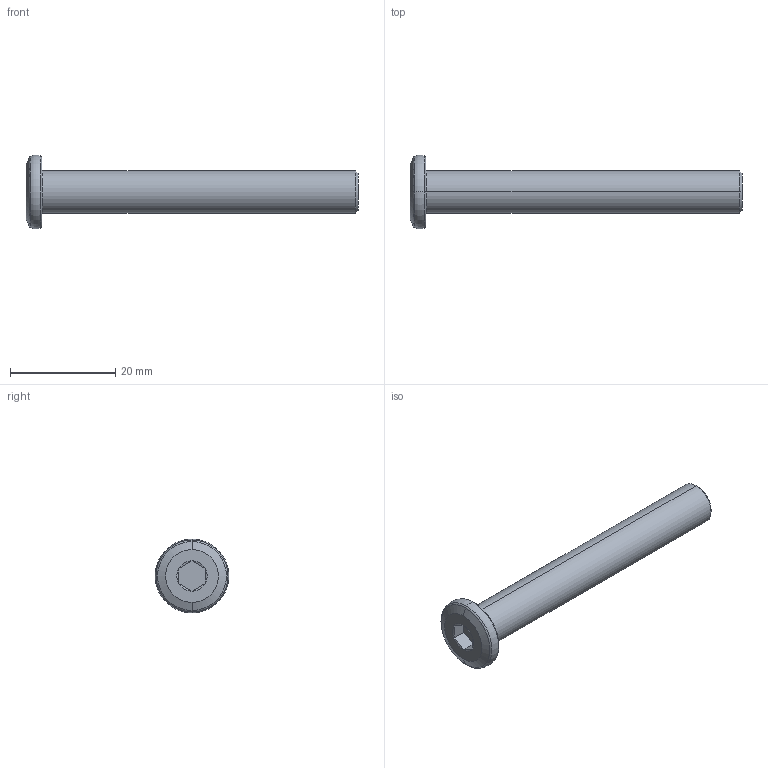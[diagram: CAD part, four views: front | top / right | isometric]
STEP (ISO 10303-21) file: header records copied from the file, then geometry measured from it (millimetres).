
FILE_DESCRIPTION (( 'STEP AP203' ), '1' );
FILE_NAME ('LGD-304D-M8x60.STEP', '2026-08-13T08:33:05', ( '' ), ( '' ), 'SwSTEP 2.0', 'SolidWorks 2020', '' );
FILE_SCHEMA (( 'CONFIG_CONTROL_DESIGN' ));
Length unit declared in the file: millimetre
Products named in the file (1): LGD-304D-M8x60
Bounding box: 63 x 14 x 14 mm (x, y, z)
Volume: 3374.4 mm3; surface area: 1932.1 mm2
Topology: 1 solids, 1 shells, 30 faces, 56 edges, 30 vertices
Faces by surface type: cone 10, plane 10, torus 8, cylinder 2
Entity records: 827 total; most frequent: DIRECTION 144, CARTESIAN_POINT 143, ORIENTED_EDGE 112, AXIS2_PLACEMENT_3D 63, EDGE_CURVE 56, EDGE_LOOP 32, CIRCLE 32, ADVANCED_FACE 30
